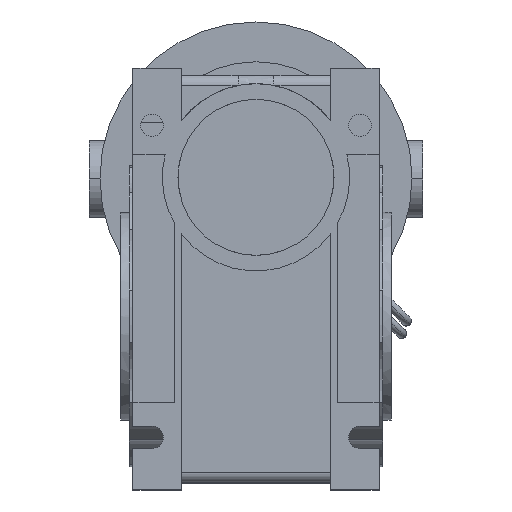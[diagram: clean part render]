
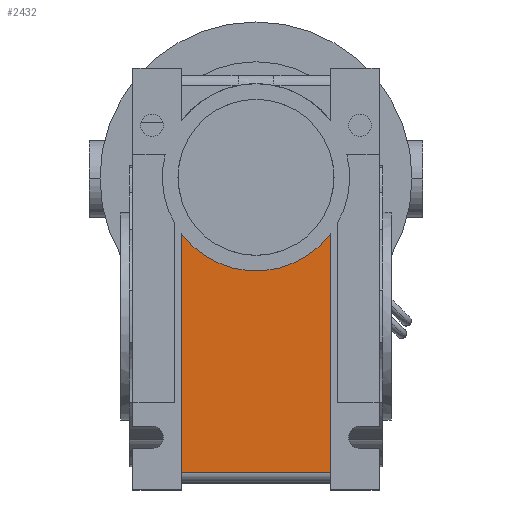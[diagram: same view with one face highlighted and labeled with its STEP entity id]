
A CAD part, top view. The second image highlights one B-rep face of the part: STEP entity #2432.
In plain terms, the highlighted planar face has unit normal (0, 0, 1).
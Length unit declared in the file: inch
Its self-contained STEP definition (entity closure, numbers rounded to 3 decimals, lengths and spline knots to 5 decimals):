
#2429 = VERTEX_POINT ( 'NONE', #8516 ) ;
#2431 = EDGE_CURVE ( 'NONE', #2511, #2429, #8515, .T. ) ;
#2432 = ADVANCED_FACE ( 'NONE', ( #8511 ), #8510, .F. ) ;
#2433 = EDGE_LOOP ( 'NONE', ( #2434, #2437, #2438, #2499 ) ) ;
#2434 = ORIENTED_EDGE ( 'NONE', *, *, #2435, .T. ) ;
#2435 = EDGE_CURVE ( 'NONE', #2436, #2511, #8508, .T. ) ;
#2436 = VERTEX_POINT ( 'NONE', #8501 ) ;
#2437 = ORIENTED_EDGE ( 'NONE', *, *, #2431, .T. ) ;
#2438 = ORIENTED_EDGE ( 'NONE', *, *, #2497, .T. ) ;
#2497 = EDGE_CURVE ( 'NONE', #2429, #2498, #8648, .T. ) ;
#2498 = VERTEX_POINT ( 'NONE', #8644 ) ;
#2499 = ORIENTED_EDGE ( 'NONE', *, *, #2500, .T. ) ;
#2500 = EDGE_CURVE ( 'NONE', #2498, #2436, #8643, .T. ) ;
#2511 = VERTEX_POINT ( 'NONE', #8689 ) ;
#8501 = CARTESIAN_POINT ( 'NONE',  ( -0.84646, -0.64301, 4.92567 ) ) ;
#8502 = DIRECTION ( 'NONE',  ( 0., -1., 0. ) ) ;
#8503 = VECTOR ( 'NONE', #8502, 39.37008 ) ;
#8504 = CARTESIAN_POINT ( 'NONE',  ( -0.84646, -0.64301, 4.92567 ) ) ;
#8505 = DIRECTION ( 'NONE',  ( 0., -1., 0. ) ) ;
#8506 = DIRECTION ( 'NONE',  ( 0., 0., -1. ) ) ;
#8507 = AXIS2_PLACEMENT_3D ( 'NONE', #8509, #8506, #8505 ) ;
#8508 = LINE ( 'NONE', #8504, #8503 ) ;
#8509 = CARTESIAN_POINT ( 'NONE',  ( 0., 0., 4.92567 ) ) ;
#8510 = PLANE ( 'NONE',  #8507 ) ;
#8511 = FACE_OUTER_BOUND ( 'NONE', #2433, .T. ) ;
#8512 = DIRECTION ( 'NONE',  ( 1., 0., 0. ) ) ;
#8513 = VECTOR ( 'NONE', #8512, 39.37008 ) ;
#8514 = CARTESIAN_POINT ( 'NONE',  ( 0., -3.34646, 4.92567 ) ) ;
#8515 = LINE ( 'NONE', #8514, #8513 ) ;
#8516 = CARTESIAN_POINT ( 'NONE',  ( 0.84646, -3.34646, 4.92567 ) ) ;
#8639 = DIRECTION ( 'NONE',  ( 1., 0., 0. ) ) ;
#8640 = DIRECTION ( 'NONE',  ( 0., 0., -1. ) ) ;
#8641 = CARTESIAN_POINT ( 'NONE',  ( 0., 0., 4.92567 ) ) ;
#8642 = AXIS2_PLACEMENT_3D ( 'NONE', #8641, #8640, #8639 ) ;
#8643 = CIRCLE ( 'NONE', #8642, 1.06299 ) ;
#8644 = CARTESIAN_POINT ( 'NONE',  ( 0.84646, -0.64301, 4.92567 ) ) ;
#8645 = DIRECTION ( 'NONE',  ( 0., 1., 0. ) ) ;
#8646 = VECTOR ( 'NONE', #8645, 39.37008 ) ;
#8647 = CARTESIAN_POINT ( 'NONE',  ( 0.84646, -3.46457, 4.92567 ) ) ;
#8648 = LINE ( 'NONE', #8647, #8646 ) ;
#8689 = CARTESIAN_POINT ( 'NONE',  ( -0.84646, -3.34646, 4.92567 ) ) ;
